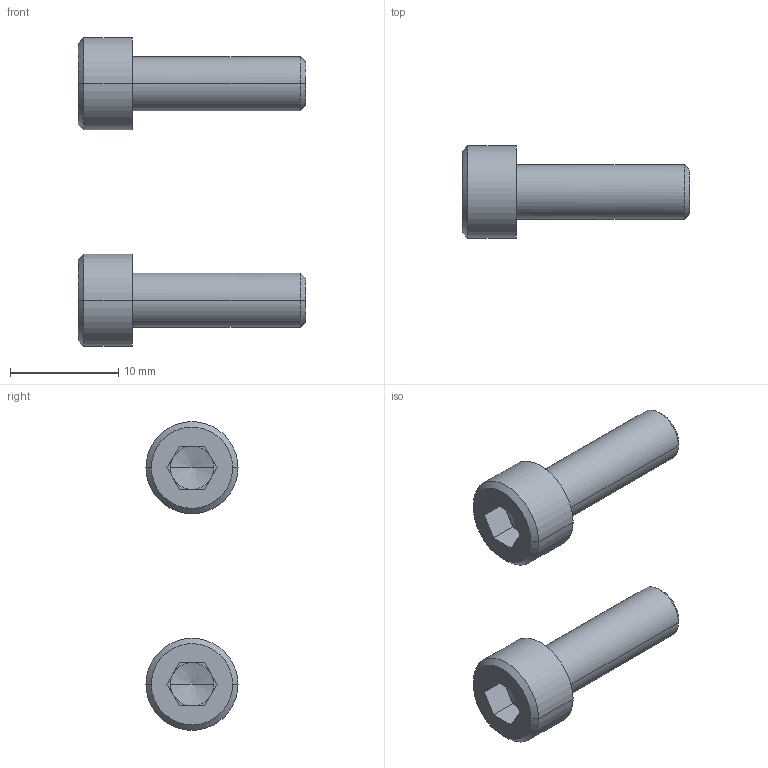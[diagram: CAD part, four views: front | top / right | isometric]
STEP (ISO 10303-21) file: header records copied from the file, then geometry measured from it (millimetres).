
FILE_DESCRIPTION(/* description */ (''),/* implementation_level */ '2;1');
FILE_NAME(/* name */ '6.y-drive#6.6#CB5-16',/* time_stamp */ '2014-12-01T20:15:10+01:00',/* author */ (''),/* organization */ (''),/* preprocessor_version */ 'ST-DEVELOPER v14',/* originating_system */ '',/* authorisation */ '');
FILE_SCHEMA (('AUTOMOTIVE_DESIGN'));
Length unit declared in the file: millimetre
Products named in the file (2): Document; screw DIN912-like, M5x16
Assembly tree (2 placements, depth 2):
  Document
    screw DIN912-like, M5x16  x2
Bounding box: 21 x 8.5 x 28.49 mm (x, y, z)
Volume: 1114.8 mm3; surface area: 1041.2 mm2
Topology: 2 solids, 2 shells, 50 faces, 112 edges, 66 vertices
Faces by surface type: plane 30, bspline 20
Entity records: 1413 total; most frequent: CARTESIAN_POINT 633, B_SPLINE_CURVE_WITH_KNOTS 126, ORIENTED_EDGE 108, PCURVE 108, DEFINITIONAL_REPRESENTATION 108, SURFACE_CURVE 54, EDGE_CURVE 54, VERTEX_POINT 33
